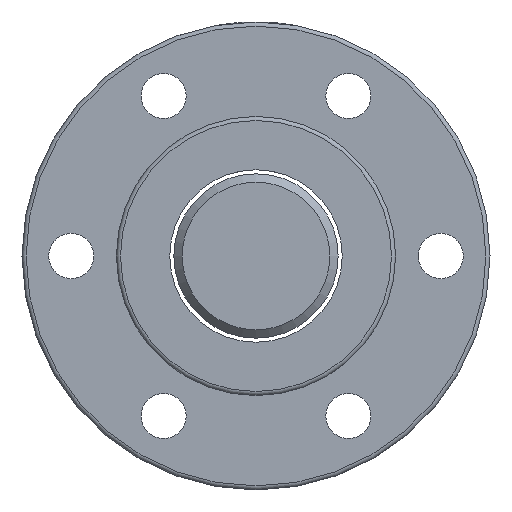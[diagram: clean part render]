
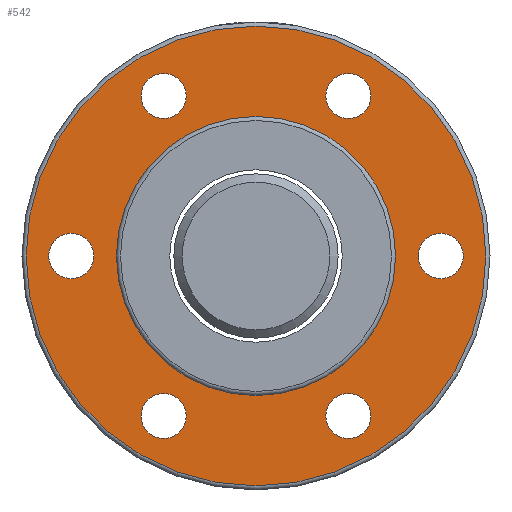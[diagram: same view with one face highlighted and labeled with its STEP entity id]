
A CAD part, left-side view. The second image highlights one B-rep face of the part: STEP entity #542.
In plain terms, the highlighted planar face has unit normal (-1, 0, 0).
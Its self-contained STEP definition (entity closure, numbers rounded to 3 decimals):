
#73=PLANE('',#644);
#156=ORIENTED_EDGE('',*,*,#231,.T.);
#157=ORIENTED_EDGE('',*,*,#239,.F.);
#158=ORIENTED_EDGE('',*,*,#229,.T.);
#159=ORIENTED_EDGE('',*,*,#225,.T.);
#160=ORIENTED_EDGE('',*,*,#221,.T.);
#161=ORIENTED_EDGE('',*,*,#217,.T.);
#162=ORIENTED_EDGE('',*,*,#213,.T.);
#163=ORIENTED_EDGE('',*,*,#209,.T.);
#209=EDGE_CURVE('',#261,#261,#308,.T.);
#213=EDGE_CURVE('',#265,#265,#312,.T.);
#217=EDGE_CURVE('',#269,#269,#316,.T.);
#221=EDGE_CURVE('',#273,#273,#320,.T.);
#225=EDGE_CURVE('',#277,#277,#324,.T.);
#229=EDGE_CURVE('',#281,#281,#328,.T.);
#231=EDGE_CURVE('',#283,#283,#330,.T.);
#239=EDGE_CURVE('',#291,#291,#334,.T.);
#261=VERTEX_POINT('',#854);
#265=VERTEX_POINT('',#865);
#269=VERTEX_POINT('',#876);
#273=VERTEX_POINT('',#887);
#277=VERTEX_POINT('',#898);
#281=VERTEX_POINT('',#909);
#283=VERTEX_POINT('',#914);
#291=VERTEX_POINT('',#952);
#308=CIRCLE('',#597,2.75);
#312=CIRCLE('',#604,2.75);
#316=CIRCLE('',#611,2.75);
#320=CIRCLE('',#618,2.75);
#324=CIRCLE('',#625,2.75);
#328=CIRCLE('',#632,2.75);
#330=CIRCLE('',#635,17.);
#334=CIRCLE('',#643,28.);
#397=EDGE_LOOP('',(#156));
#398=EDGE_LOOP('',(#157));
#399=EDGE_LOOP('',(#158));
#400=EDGE_LOOP('',(#159));
#401=EDGE_LOOP('',(#160));
#402=EDGE_LOOP('',(#161));
#403=EDGE_LOOP('',(#162));
#404=EDGE_LOOP('',(#163));
#482=FACE_BOUND('',#397,.T.);
#483=FACE_BOUND('',#398,.T.);
#484=FACE_BOUND('',#399,.T.);
#485=FACE_BOUND('',#400,.T.);
#486=FACE_BOUND('',#401,.T.);
#487=FACE_BOUND('',#402,.T.);
#488=FACE_BOUND('',#403,.T.);
#489=FACE_BOUND('',#404,.T.);
#542=ADVANCED_FACE('',(#482,#483,#484,#485,#486,#487,#488,#489),#73,.F.);
#597=AXIS2_PLACEMENT_3D('',#853,#699,#700);
#604=AXIS2_PLACEMENT_3D('',#864,#713,#714);
#611=AXIS2_PLACEMENT_3D('',#875,#727,#728);
#618=AXIS2_PLACEMENT_3D('',#886,#741,#742);
#625=AXIS2_PLACEMENT_3D('',#897,#755,#756);
#632=AXIS2_PLACEMENT_3D('',#908,#769,#770);
#635=AXIS2_PLACEMENT_3D('',#913,#775,#776);
#643=AXIS2_PLACEMENT_3D('',#951,#791,#792);
#644=AXIS2_PLACEMENT_3D('',#953,#793,#794);
#699=DIRECTION('',(1.,0.,0.));
#700=DIRECTION('',(0.,1.,0.));
#713=DIRECTION('',(1.,0.,0.));
#714=DIRECTION('',(0.,1.,0.));
#727=DIRECTION('',(1.,0.,0.));
#728=DIRECTION('',(0.,1.,0.));
#741=DIRECTION('',(1.,0.,0.));
#742=DIRECTION('',(0.,1.,0.));
#755=DIRECTION('',(1.,0.,0.));
#756=DIRECTION('',(0.,1.,0.));
#769=DIRECTION('',(1.,0.,0.));
#770=DIRECTION('',(0.,1.,0.));
#775=DIRECTION('',(1.,0.,0.));
#776=DIRECTION('',(0.,1.,0.));
#791=DIRECTION('',(1.,0.,0.));
#792=DIRECTION('',(0.,1.,0.));
#793=DIRECTION('',(1.,0.,0.));
#794=DIRECTION('',(0.,1.,0.));
#853=CARTESIAN_POINT('',(-26.,22.5,0.));
#854=CARTESIAN_POINT('',(-26.,25.25,0.));
#864=CARTESIAN_POINT('',(-26.,-22.5,0.));
#865=CARTESIAN_POINT('',(-26.,-19.75,0.));
#875=CARTESIAN_POINT('',(-26.,11.25,-19.486));
#876=CARTESIAN_POINT('',(-26.,14.,-19.486));
#886=CARTESIAN_POINT('',(-26.,-11.25,-19.486));
#887=CARTESIAN_POINT('',(-26.,-8.5,-19.486));
#897=CARTESIAN_POINT('',(-26.,-11.25,19.486));
#898=CARTESIAN_POINT('',(-26.,-8.5,19.486));
#908=CARTESIAN_POINT('',(-26.,11.25,19.486));
#909=CARTESIAN_POINT('',(-26.,14.,19.486));
#913=CARTESIAN_POINT('',(-26.,0.,0.));
#914=CARTESIAN_POINT('',(-26.,17.,0.));
#951=CARTESIAN_POINT('',(-26.,0.,0.));
#952=CARTESIAN_POINT('',(-26.,28.,0.));
#953=CARTESIAN_POINT('',(-26.,22.5,0.));
